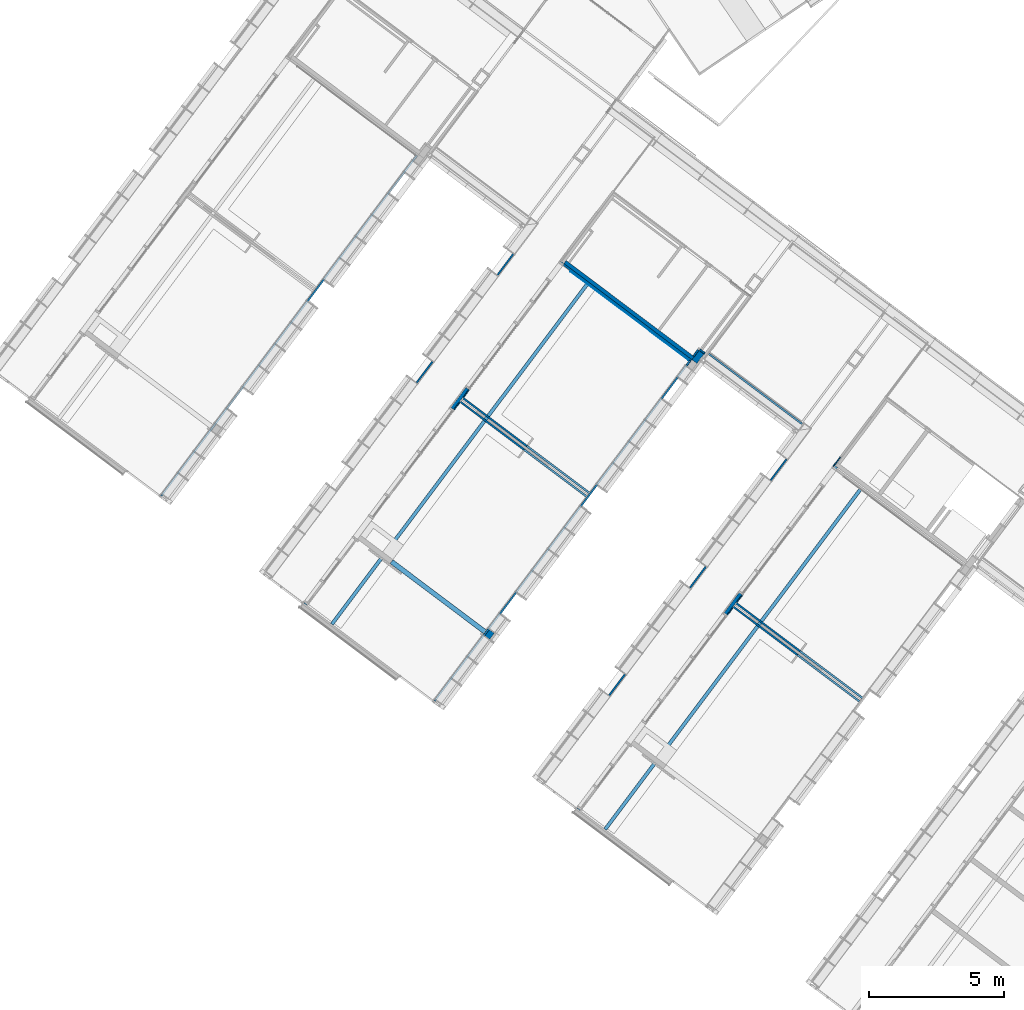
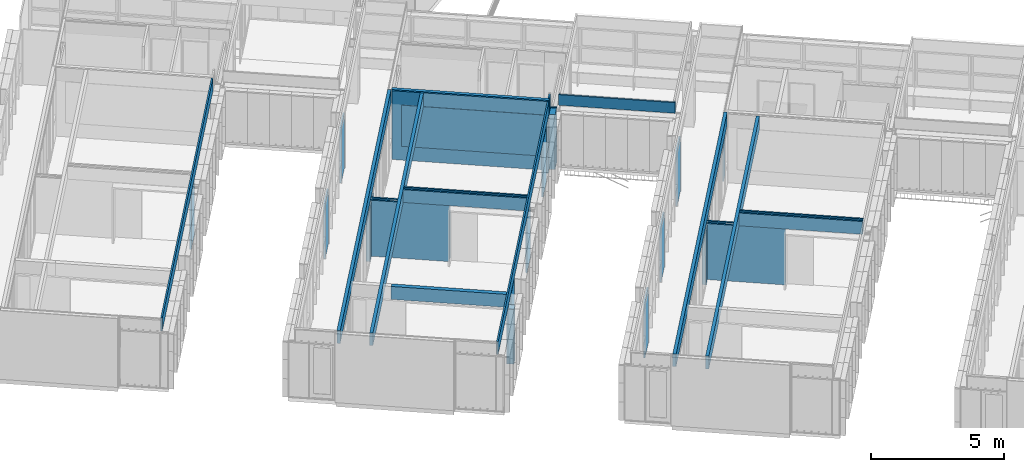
# One storey, part 126 of 243: 41 walls.
"""IFC2X3 building model written with IfcOpenShell, lengths in metres."""

from ifc_helpers import new_model, entity, si_unit, converted_unit, derived_unit, direction, frame, frame_2d, origin, place, context, subcontext, project, spatial, rectangle, extrude, material, layer, layer_set, layer_usage, type_object, element, save


model = new_model("IFC2X3")

# Units and contexts
model_context = context("Model", 3, precision=1e-05, world=origin(), true_north=direction((6.123031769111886e-17, 1.0)))
body_context = subcontext(model_context, "Body", "Model", "MODEL_VIEW")
ifc_project = project(units=[si_unit("LENGTHUNIT", "METRE"), si_unit("AREAUNIT", "SQUARE_METRE"), si_unit("VOLUMEUNIT", "CUBIC_METRE"), converted_unit("PLANEANGLEUNIT", "DEGREE", entity("IfcRatioMeasure", 0.017453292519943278), si_unit("PLANEANGLEUNIT", "RADIAN"), dimensions=[0, 0, 0, 0, 0, 0, 0]), si_unit("MASSUNIT", "GRAM", prefix="KILO"), derived_unit("MASSDENSITYUNIT", [(si_unit("MASSUNIT", "GRAM", prefix="KILO"), 1), (si_unit("LENGTHUNIT", "METRE"), -3)]), derived_unit("IONCONCENTRATIONUNIT", [(si_unit("MASSUNIT", "GRAM", prefix="KILO"), 1), (si_unit("LENGTHUNIT", "METRE"), -3)]), derived_unit("MOMENTOFINERTIAUNIT", [(si_unit("LENGTHUNIT", "METRE"), 4)]), si_unit("TIMEUNIT", "SECOND"), si_unit("FREQUENCYUNIT", "HERTZ"), si_unit("THERMODYNAMICTEMPERATUREUNIT", "DEGREE_CELSIUS"), derived_unit("THERMALTRANSMITTANCEUNIT", [(si_unit("MASSUNIT", "GRAM", prefix="KILO"), 1), (si_unit("THERMODYNAMICTEMPERATUREUNIT", "KELVIN"), -1), (si_unit("TIMEUNIT", "SECOND"), -3)]), derived_unit("THERMALCONDUCTANCEUNIT", [(si_unit("MASSUNIT", "GRAM", prefix="KILO"), 1), (si_unit("THERMODYNAMICTEMPERATUREUNIT", "KELVIN"), -1), (si_unit("TIMEUNIT", "SECOND"), -3), (si_unit("LENGTHUNIT", "METRE"), 1)]), derived_unit("VOLUMETRICFLOWRATEUNIT", [(si_unit("LENGTHUNIT", "METRE"), 3), (si_unit("TIMEUNIT", "SECOND"), -1)]), derived_unit("MASSFLOWRATEUNIT", [(si_unit("MASSUNIT", "GRAM", prefix="KILO"), 1), (si_unit("TIMEUNIT", "SECOND"), -1)]), derived_unit("ROTATIONALFREQUENCYUNIT", [(si_unit("TIMEUNIT", "SECOND"), -1)]), si_unit("ELECTRICCURRENTUNIT", "AMPERE"), si_unit("ELECTRICVOLTAGEUNIT", "VOLT"), si_unit("POWERUNIT", "WATT"), si_unit("FORCEUNIT", "NEWTON", prefix="KILO"), si_unit("ILLUMINANCEUNIT", "LUX"), si_unit("LUMINOUSFLUXUNIT", "LUMEN"), si_unit("LUMINOUSINTENSITYUNIT", "CANDELA"), derived_unit("USERDEFINED", [(si_unit("MASSUNIT", "GRAM", prefix="KILO"), -1), (si_unit("LENGTHUNIT", "METRE"), -2), (si_unit("TIMEUNIT", "SECOND"), 3), (si_unit("LUMINOUSFLUXUNIT", "LUMEN"), 1)]), derived_unit("USERDEFINED", [(si_unit("MASSUNIT", "GRAM", prefix="KILO"), 1), (si_unit("TIMEUNIT", "SECOND"), -3), (si_unit("LENGTHUNIT", "METRE"), 3), (si_unit("ELECTRICCURRENTUNIT", "AMPERE"), -2)]), derived_unit("SOUNDPOWERUNIT", [(si_unit("MASSUNIT", "GRAM", prefix="KILO"), 1), (si_unit("TIMEUNIT", "SECOND"), -3), (si_unit("LENGTHUNIT", "METRE"), 2)]), derived_unit("SOUNDPRESSUREUNIT", [(si_unit("MASSUNIT", "GRAM", prefix="KILO"), 1), (si_unit("LENGTHUNIT", "METRE"), -1), (si_unit("TIMEUNIT", "SECOND"), -2)]), derived_unit("LINEARVELOCITYUNIT", [(si_unit("LENGTHUNIT", "METRE"), 1), (si_unit("TIMEUNIT", "SECOND"), -1)]), si_unit("PRESSUREUNIT", "PASCAL"), derived_unit("USERDEFINED", [(si_unit("MASSUNIT", "GRAM", prefix="KILO"), 1), (si_unit("LENGTHUNIT", "METRE"), -2), (si_unit("TIMEUNIT", "SECOND"), -2)]), derived_unit("LINEARFORCEUNIT", [(si_unit("MASSUNIT", "GRAM", prefix="KILO"), 1), (si_unit("TIMEUNIT", "SECOND"), -2)]), derived_unit("PLANARFORCEUNIT", [(si_unit("MASSUNIT", "GRAM", prefix="KILO"), 1), (si_unit("LENGTHUNIT", "METRE"), -1), (si_unit("TIMEUNIT", "SECOND"), -2)]), derived_unit("SPECIFICHEATCAPACITYUNIT", [(si_unit("THERMODYNAMICTEMPERATUREUNIT", "KELVIN"), -1), (si_unit("LENGTHUNIT", "METRE"), 2), (si_unit("TIMEUNIT", "SECOND"), -2)]), derived_unit("HEATINGVALUEUNIT", [(si_unit("LENGTHUNIT", "METRE"), 2), (si_unit("TIMEUNIT", "SECOND"), -2)]), derived_unit("VAPORPERMEABILITYUNIT", [(si_unit("LENGTHUNIT", "METRE"), -1), (si_unit("TIMEUNIT", "SECOND"), 1)]), derived_unit("DYNAMICVISCOSITYUNIT", [(si_unit("MASSUNIT", "GRAM", prefix="KILO"), 1), (si_unit("TIMEUNIT", "SECOND"), -1), (si_unit("LENGTHUNIT", "METRE"), -1)]), derived_unit("THERMALEXPANSIONCOEFFICIENTUNIT", [(si_unit("THERMODYNAMICTEMPERATUREUNIT", "KELVIN"), -1)]), derived_unit("MODULUSOFELASTICITYUNIT", [(si_unit("MASSUNIT", "GRAM", prefix="KILO"), 1), (si_unit("LENGTHUNIT", "METRE"), -1), (si_unit("TIMEUNIT", "SECOND"), -2)]), derived_unit("ISOTHERMALMOISTURECAPACITYUNIT", [(si_unit("LENGTHUNIT", "METRE"), 3), (si_unit("MASSUNIT", "GRAM", prefix="KILO"), -1)]), derived_unit("MOISTUREDIFFUSIVITYUNIT", [(si_unit("TIMEUNIT", "SECOND"), -1), (si_unit("LENGTHUNIT", "METRE"), 2)])], contexts=[model_context])

# Site, building, storey
site_placement = place(None, frame((0.0, 0.0, 235.0), z_axis=(0.0, 0.0, 1.0), x_axis=(-0.7996477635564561, 0.6004693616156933, 0.0)))
site = spatial("IfcSite", under=ifc_project, at=site_placement, Name="Default", CompositionType="ELEMENT")
building_placement = place(site_placement, origin())
building = spatial("IfcBuilding", under=site, at=building_placement, CompositionType="ELEMENT")
storey_placement = place(building_placement, origin())
storey = spatial("IfcBuildingStorey", under=building, at=storey_placement, Name="P0- Escola", CompositionType="ELEMENT", Elevation=0.0)

# Walls
ifc_material_1 = material(Name="_Ceràmica- ENV")
ifc_layer_1 = layer(ifc_material_1, 0.14)
ifc_layer_set_1 = layer_set([ifc_layer_1], Name="Muro básico:ENV- Ceràmic- 14 cm")
ifc_layer_usage_1 = layer_usage(ifc_layer_set_1, "AXIS2", "NEGATIVE", 0.07)
wall_type_1 = type_object("IfcWallType", Name="Muro básico:ENV- Ceràmic- 14 cm", PredefinedType="STANDARD", material=ifc_layer_set_1)
wall_1_placement = place(storey_placement, frame((60.000147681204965, -36.320191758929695, 0.0), z_axis=(0.0, 0.0, 1.0), x_axis=(-1.0, 0.0, 0.0)))
element("IfcWallStandardCase", 1, at=wall_1_placement, inside=storey, type_object=wall_type_1, material=ifc_layer_usage_1, Name="Muro básico:ENV- Ceràmic- 14 cm", ObjectType="Muro básico:ENV- Ceràmic- 14 cm", context=body_context, shape_type="SweptSolid", body=[
    extrude(rectangle(XDim=5.955000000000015, YDim=0.14000000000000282, at=frame_2d((2.9775000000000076, -4.0245584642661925e-16), x_axis=(-1.0, 0.0))), origin(), (0.0, 0.0, 1.0), 3.150000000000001),
])
ifc_material_2 = material(Name="_Fusta massisa- T1-  REV- PAV")
ifc_layer_2 = layer(ifc_material_2, 0.015)
ifc_material_3 = material(Name="_Genèric perfils, muntants, rastrells")
ifc_layer_3 = layer(ifc_material_3, 0.02)
ifc_layer_set_2 = layer_set([ifc_layer_2, ifc_layer_3], Name="Muro básico:REV- Fusta- T1- 3,5 cm")
ifc_layer_usage_2 = layer_usage(ifc_layer_set_2, "AXIS2", "NEGATIVE", 0.0175)
wall_type_2 = type_object("IfcWallType", Name="Muro básico:REV- Fusta- T1- 3,5 cm", PredefinedType="STANDARD", material=ifc_layer_set_2)
wall_2_placement = place(storey_placement, frame((47.46264768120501, -36.22018997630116, 0.0), z_axis=(0.0, 0.0, 1.0), x_axis=(0.0, -1.0, 0.0)))
element("IfcWallStandardCase", 2, at=wall_2_placement, inside=storey, type_object=wall_type_2, material=ifc_layer_usage_2, Name="Muro básico:REV- Fusta- T1- 3,5 cm", ObjectType="Muro básico:REV- Fusta- T1- 3,5 cm", context=body_context, shape_type="SweptSolid", body=[
    extrude(rectangle(XDim=0.4500000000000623, YDim=0.034999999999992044, at=frame_2d((0.22500000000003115, 0.0), x_axis=(-1.0, 0.0))), origin(), (0.0, 0.0, 1.0), 2.565),
])
ifc_layer_usage_3 = layer_usage(ifc_layer_set_2, "AXIS2", "POSITIVE", -0.0175)
wall_3_placement = place(storey_placement, frame((47.297647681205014, -30.0341899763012, 0.0), z_axis=(0.0, 0.0, 1.0), x_axis=(0.0, -1.0, 0.0)))
element("IfcWallStandardCase", 3, at=wall_3_placement, inside=storey, type_object=wall_type_2, material=ifc_layer_usage_3, Name="Muro básico:REV- Fusta- T1- 3,5 cm", ObjectType="Muro básico:REV- Fusta- T1- 3,5 cm", context=body_context, shape_type="SweptSolid", body=[
    extrude(rectangle(XDim=0.35099999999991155, YDim=0.034999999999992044, at=frame_2d((0.17549999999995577, 0.0), x_axis=(-1.0, 0.0))), origin(), (0.0, 0.0, 1.0), 2.5049999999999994),
])
wall_4_placement = place(storey_placement, frame((47.297647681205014, -29.796186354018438, 0.0), z_axis=(0.0, 0.0, 1.0), x_axis=(0.0, 1.0, 0.0)))
element("IfcWallStandardCase", 4, at=wall_4_placement, inside=storey, type_object=wall_type_2, material=ifc_layer_usage_2, Name="Muro básico:REV- Fusta- T1- 3,5 cm", ObjectType="Muro básico:REV- Fusta- T1- 3,5 cm", context=body_context, shape_type="SweptSolid", body=[
    extrude(rectangle(XDim=0.35099999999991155, YDim=0.034999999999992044, at=frame_2d((0.17549999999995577, -3.1970953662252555e-15), x_axis=(-1.0, 0.0))), origin(), (0.0, 0.0, 1.0), 2.5049999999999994),
])
wall_5_placement = place(storey_placement, frame((59.99764768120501, -30.034189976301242, 0.0), z_axis=(0.0, 0.0, 1.0), x_axis=(0.0, -1.0, 0.0)))
element("IfcWallStandardCase", 5, at=wall_5_placement, inside=storey, type_object=wall_type_2, material=ifc_layer_usage_3, Name="Muro básico:REV- Fusta- T1- 3,5 cm", ObjectType="Muro básico:REV- Fusta- T1- 3,5 cm", context=body_context, shape_type="SweptSolid", body=[
    extrude(rectangle(XDim=0.35099999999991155, YDim=0.034999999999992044, at=frame_2d((0.17549999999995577, 0.0), x_axis=(-1.0, 0.0))), origin(), (0.0, 0.0, 1.0), 2.5049999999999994),
])
wall_6_placement = place(storey_placement, frame((59.99764768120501, -29.79618635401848, 0.0), z_axis=(0.0, 0.0, 1.0), x_axis=(0.0, 1.0, 0.0)))
element("IfcWallStandardCase", 6, at=wall_6_placement, inside=storey, type_object=wall_type_2, material=ifc_layer_usage_2, Name="Muro básico:REV- Fusta- T1- 3,5 cm", ObjectType="Muro básico:REV- Fusta- T1- 3,5 cm", context=body_context, shape_type="SweptSolid", body=[
    extrude(rectangle(XDim=0.35099999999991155, YDim=0.034999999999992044, at=frame_2d((0.17549999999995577, -3.1970953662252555e-15), x_axis=(-1.0, 0.0))), origin(), (0.0, 0.0, 1.0), 2.5049999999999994),
])
ifc_material_4 = material(Name="_Guix laminat- ENV")
ifc_layer_4 = layer(ifc_material_4, 0.02)
ifc_material_5 = material(Name="_Aillament")
ifc_layer_5 = layer(ifc_material_5, 0.045)
ifc_layer_set_3 = layer_set([ifc_layer_4, ifc_layer_5], Name="Muro básico:REV- Guix Laminat Extradossat- Aillament- T1- 6,5 cm")
ifc_layer_usage_4 = layer_usage(ifc_layer_set_3, "AXIS2", "POSITIVE", -0.032499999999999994)
wall_type_3 = type_object("IfcWallType", Name="Muro básico:REV- Guix Laminat Extradossat- Aillament- T1- 6,5 cm", PredefinedType="STANDARD", material=ifc_layer_set_3)
wall_7_placement = place(storey_placement, frame((53.805147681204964, -36.72269175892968, 0.0)))
element("IfcWallStandardCase", 7, at=wall_7_placement, inside=storey, type_object=wall_type_3, material=ifc_layer_usage_4, Name="Muro básico:REV- Guix Laminat Extradossat- Aillament- T1- 6,5 cm", ObjectType="Muro básico:REV- Guix Laminat Extradossat- Aillament- T1- 6,5 cm", context=body_context, shape_type="SweptSolid", body=[
    extrude(rectangle(XDim=0.23999999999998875, YDim=0.06500000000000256, at=frame_2d((0.11999999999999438, 0.0), x_axis=(-1.0, 0.0))), origin(), (0.0, 0.0, 1.0), 2.535000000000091),
])
wall_8_placement = place(storey_placement, frame((54.07764768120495, -36.69019175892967, 0.0), z_axis=(0.0, 0.0, 1.0), x_axis=(0.0, 1.0, 0.0)))
element("IfcWallStandardCase", 8, at=wall_8_placement, inside=storey, type_object=wall_type_3, material=ifc_layer_usage_4, Name="Muro básico:REV- Guix Laminat Extradossat- Aillament- T1- 6,5 cm", ObjectType="Muro básico:REV- Guix Laminat Extradossat- Aillament- T1- 6,5 cm", context=body_context, shape_type="SweptSolid", body=[
    extrude(rectangle(XDim=0.29500000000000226, YDim=0.06500000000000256, at=frame_2d((0.14750000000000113, 0.0), x_axis=(-1.0, 0.0))), origin(), (0.0, 0.0, 1.0), 3.150000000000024),
])
ifc_layer_usage_5 = layer_usage(ifc_layer_set_3, "AXIS2", "NEGATIVE", 0.032499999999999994)
wall_9_placement = place(storey_placement, frame((53.74514768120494, -36.79769175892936, 2.6000000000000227), z_axis=(0.0, 0.0, 1.0), x_axis=(-1.0, 0.0, 0.0)))
element("IfcWallStandardCase", 9, at=wall_9_placement, inside=storey, type_object=wall_type_3, material=ifc_layer_usage_5, Name="Muro básico:REV- Guix Laminat Extradossat- Aillament- T1- 6,5 cm", ObjectType="Muro básico:REV- Guix Laminat Extradossat- Aillament- T1- 6,5 cm", context=body_context, shape_type="SweptSolid", body=[
    extrude(rectangle(XDim=4.40000814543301, YDim=0.06500000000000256, at=frame_2d((2.200004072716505, 9.71445146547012e-17), x_axis=(-1.0, 0.0))), origin(), (0.0, 0.0, 1.0), 0.48500000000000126),
])
wall_10_placement = place(storey_placement, frame((49.01264768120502, -24.420191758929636, 0.0), z_axis=(0.0, 0.0, 1.0), x_axis=(0.0, -1.0, 0.0)))
element("IfcWallStandardCase", 10, at=wall_10_placement, inside=storey, type_object=wall_type_3, material=ifc_layer_usage_4, Name="Muro básico:REV- Guix Laminat Extradossat- Aillament- T1- 6,5 cm", ObjectType="Muro básico:REV- Guix Laminat Extradossat- Aillament- T1- 6,5 cm", context=body_context, shape_type="SweptSolid", body=[
    extrude(rectangle(XDim=0.9900000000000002, YDim=0.06500000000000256, at=frame_2d((0.4950000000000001, -1.4467593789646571e-15), x_axis=(-1.0, 0.0))), origin(), (0.0, 0.0, 1.0), 2.565),
])
wall_11_placement = place(storey_placement, frame((49.012647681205, -29.420191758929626, 0.0), z_axis=(0.0, 0.0, 1.0), x_axis=(0.0, -1.0, 0.0)))
element("IfcWallStandardCase", 11, at=wall_11_placement, inside=storey, type_object=wall_type_3, material=ifc_layer_usage_4, Name="Muro básico:REV- Guix Laminat Extradossat- Aillament- T1- 6,5 cm", ObjectType="Muro básico:REV- Guix Laminat Extradossat- Aillament- T1- 6,5 cm", context=body_context, shape_type="SweptSolid", body=[
    extrude(rectangle(XDim=0.9900000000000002, YDim=0.06500000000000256, at=frame_2d((0.4950000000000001, -1.4467593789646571e-15), x_axis=(-1.0, 0.0))), origin(), (0.0, 0.0, 1.0), 2.535000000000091),
])
wall_12_placement = place(storey_placement, frame((49.01264768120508, -35.410191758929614, 0.0), z_axis=(0.0, 0.0, 1.0), x_axis=(0.0, 1.0, 0.0)))
element("IfcWallStandardCase", 12, at=wall_12_placement, inside=storey, type_object=wall_type_3, material=ifc_layer_usage_5, Name="Muro básico:REV- Guix Laminat Extradossat- Aillament- T1- 6,5 cm", ObjectType="Muro básico:REV- Guix Laminat Extradossat- Aillament- T1- 6,5 cm", context=body_context, shape_type="SweptSolid", body=[
    extrude(rectangle(XDim=0.9900000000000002, YDim=0.06500000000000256, at=frame_2d((0.4950000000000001, 0.0), x_axis=(-1.0, 0.0))), origin(), (0.0, 0.0, 1.0), 2.535000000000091),
])
wall_13_placement = place(storey_placement, frame((54.07764768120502, -36.1751917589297, 2.565), z_axis=(0.0, 0.0, 1.0), x_axis=(0.0, 1.0, 0.0)))
element("IfcWallStandardCase", 13, at=wall_13_placement, inside=storey, type_object=wall_type_3, material=ifc_layer_usage_4, Name="Muro básico:REV- Guix Laminat Extradossat- Aillament- T1- 6,5 cm", ObjectType="Muro básico:REV- Guix Laminat Extradossat- Aillament- T1- 6,5 cm", context=body_context, shape_type="SweptSolid", body=[
    extrude(rectangle(XDim=15.816250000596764, YDim=0.06500000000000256, at=frame_2d((7.908125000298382, 0.0), x_axis=(-1.0, 0.0))), origin(), (0.0, 0.0, 1.0), 0.5850000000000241),
])
for number, where, z_axis, x_axis, name in (
    (14, (54.07764768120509, -29.420191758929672, 0.0), (0.0, 0.0, 1.0), (0.0, -1.0, 0.0), "Muro básico:REV- Guix Laminat Extradossat- Aillament- T1- 6,5 cm"),
    (15, (54.0776476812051, -24.420191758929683, 0.0), (0.0, 0.0, 1.0), (0.0, -1.0, 0.0), "Muro básico:REV- Guix Laminat Extradossat- Aillament- T1- 6,5 cm"),
):
    element("IfcWallStandardCase", number, at=place(storey_placement, frame(where, z_axis=z_axis, x_axis=x_axis)), inside=storey, type_object=wall_type_3, material=ifc_layer_usage_5, Name=name, ObjectType="Muro básico:REV- Guix Laminat Extradossat- Aillament- T1- 6,5 cm", context=body_context, shape_type="SweptSolid", body=[
        extrude(rectangle(XDim=0.9900000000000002, YDim=0.06500000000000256, at=frame_2d((0.4950000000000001, -1.4467593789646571e-15), x_axis=(-1.0, 0.0))), origin(), (0.0, 0.0, 1.0), 2.535000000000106),
    ])
wall_14_placement = place(storey_placement, frame((61.712647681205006, -29.42019175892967, 0.0), z_axis=(0.0, 0.0, 1.0), x_axis=(0.0, -1.0, 0.0)))
element("IfcWallStandardCase", 16, at=wall_14_placement, inside=storey, type_object=wall_type_3, material=ifc_layer_usage_4, Name="Muro básico:REV- Guix Laminat Extradossat- Aillament- T1- 6,5 cm", ObjectType="Muro básico:REV- Guix Laminat Extradossat- Aillament- T1- 6,5 cm", context=body_context, shape_type="SweptSolid", body=[
    extrude(rectangle(XDim=0.9900000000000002, YDim=0.06500000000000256, at=frame_2d((0.4950000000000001, -1.4467593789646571e-15), x_axis=(-1.0, 0.0))), origin(), (0.0, 0.0, 1.0), 2.535000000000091),
])
wall_15_placement = place(storey_placement, frame((54.07764768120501, -23.420191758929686, 0.0), z_axis=(0.0, 0.0, 1.0), x_axis=(0.0, -1.0, 0.0)))
element("IfcWallStandardCase", 17, at=wall_15_placement, inside=storey, type_object=wall_type_3, material=ifc_layer_usage_5, Name="Muro básico:REV- Guix Laminat Extradossat- Aillament- T1- 6,5 cm", ObjectType="Muro básico:REV- Guix Laminat Extradossat- Aillament- T1- 6,5 cm", context=body_context, shape_type="SweptSolid", body=[
    extrude(rectangle(XDim=0.29000000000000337, YDim=0.06500000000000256, at=frame_2d((0.14500000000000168, -4.2327252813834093e-16), x_axis=(-1.0, 0.0))), origin(), (0.0, 0.0, 1.0), 2.535000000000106),
])
wall_16_placement = place(storey_placement, frame((54.077647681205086, -34.42019175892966, 0.0), z_axis=(0.0, 0.0, 1.0), x_axis=(0.0, -1.0, 0.0)))
element("IfcWallStandardCase", 18, at=wall_16_placement, inside=storey, type_object=wall_type_3, material=ifc_layer_usage_5, Name="Muro básico:REV- Guix Laminat Extradossat- Aillament- T1- 6,5 cm", ObjectType="Muro básico:REV- Guix Laminat Extradossat- Aillament- T1- 6,5 cm", context=body_context, shape_type="SweptSolid", body=[
    extrude(rectangle(XDim=0.9900000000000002, YDim=0.06500000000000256, at=frame_2d((0.4950000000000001, -1.4467593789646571e-15), x_axis=(-1.0, 0.0))), origin(), (0.0, 0.0, 1.0), 2.535000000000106),
])
wall_17_placement = place(storey_placement, frame((54.077647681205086, -35.95318997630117, 0.0), z_axis=(0.0, 0.0, 1.0), x_axis=(0.0, -1.0, 0.0)))
element("IfcWallStandardCase", 19, at=wall_17_placement, inside=storey, type_object=wall_type_3, material=ifc_layer_usage_5, Name="Muro básico:REV- Guix Laminat Extradossat- Aillament- T1- 6,5 cm", ObjectType="Muro básico:REV- Guix Laminat Extradossat- Aillament- T1- 6,5 cm", context=body_context, shape_type="SweptSolid", body=[
    extrude(rectangle(XDim=0.22200178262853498, YDim=0.06500000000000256, at=frame_2d((0.11100089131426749, 0.0), x_axis=(-1.0, 0.0))), origin(), (0.0, 0.0, 1.0), 2.535000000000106),
])
wall_18_placement = place(storey_placement, frame((61.712647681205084, -35.410191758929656, 0.0), z_axis=(0.0, 0.0, 1.0), x_axis=(0.0, 1.0, 0.0)))
element("IfcWallStandardCase", 20, at=wall_18_placement, inside=storey, type_object=wall_type_3, material=ifc_layer_usage_5, Name="Muro básico:REV- Guix Laminat Extradossat- Aillament- T1- 6,5 cm", ObjectType="Muro básico:REV- Guix Laminat Extradossat- Aillament- T1- 6,5 cm", context=body_context, shape_type="SweptSolid", body=[
    extrude(rectangle(XDim=0.9900000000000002, YDim=0.06500000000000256, at=frame_2d((0.4950000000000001, 0.0), x_axis=(-1.0, 0.0))), origin(), (0.0, 0.0, 1.0), 2.535000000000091),
])
wall_19_placement = place(storey_placement, frame((66.77764768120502, -36.17519175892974, 2.565), z_axis=(0.0, 0.0, 1.0), x_axis=(0.0, 1.0, 0.0)))
element("IfcWallStandardCase", 21, at=wall_19_placement, inside=storey, type_object=wall_type_3, material=ifc_layer_usage_4, Name="Muro básico:REV- Guix Laminat Extradossat- Aillament- T1- 6,5 cm", ObjectType="Muro básico:REV- Guix Laminat Extradossat- Aillament- T1- 6,5 cm", context=body_context, shape_type="SweptSolid", body=[
    extrude(rectangle(XDim=15.816250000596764, YDim=0.06500000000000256, at=frame_2d((7.908125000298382, 0.0), x_axis=(-1.0, 0.0))), origin(), (0.0, 0.0, 1.0), 0.5850000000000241),
])
wall_20_placement = place(storey_placement, frame((66.7776476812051, -29.420191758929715, 0.0), z_axis=(0.0, 0.0, 1.0), x_axis=(0.0, -1.0, 0.0)))
element("IfcWallStandardCase", 22, at=wall_20_placement, inside=storey, type_object=wall_type_3, material=ifc_layer_usage_5, Name="Muro básico:REV- Guix Laminat Extradossat- Aillament- T1- 6,5 cm", ObjectType="Muro básico:REV- Guix Laminat Extradossat- Aillament- T1- 6,5 cm", context=body_context, shape_type="SweptSolid", body=[
    extrude(rectangle(XDim=0.9900000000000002, YDim=0.06500000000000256, at=frame_2d((0.4950000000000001, -1.4467593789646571e-15), x_axis=(-1.0, 0.0))), origin(), (0.0, 0.0, 1.0), 2.535000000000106),
])
ifc_layer_6 = layer(ifc_material_1, 0.23)
ifc_layer_set_4 = layer_set([ifc_layer_6], Name="Muro básico:ENV- Ceràmic Replè- 23 cm")
ifc_layer_usage_6 = layer_usage(ifc_layer_set_4, "AXIS2", "POSITIVE", -0.115)
wall_type_4 = type_object("IfcWallType", Name="Muro básico:ENV- Ceràmic Replè- 23 cm", PredefinedType="STANDARD", material=ifc_layer_set_4)
wall_21_placement = place(storey_placement, frame((53.93014768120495, -36.250191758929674, 0.0), z_axis=(0.0, 0.0, 1.0), x_axis=(0.0, -1.0, 0.0)))
element("IfcWallStandardCase", 23, at=wall_21_placement, inside=storey, type_object=wall_type_4, material=ifc_layer_usage_6, Name="Muro básico:ENV- Ceràmic Replè- 23 cm", ObjectType="Muro básico:ENV- Ceràmic Replè- 23 cm", context=body_context, shape_type="SweptSolid", body=[
    extrude(rectangle(XDim=0.4399999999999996, YDim=0.2299999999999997, at=frame_2d((0.2199999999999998, 0.0), x_axis=(-1.0, 0.0))), origin(), (0.0, 0.0, 1.0), 2.514054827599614),
])
wall_22_placement = place(storey_placement, frame((53.9301476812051, -23.420191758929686, 0.0), z_axis=(0.0, 0.0, 1.0), x_axis=(0.0, -1.0, 0.0)))
element("IfcWallStandardCase", 24, at=wall_22_placement, inside=storey, type_object=wall_type_4, material=ifc_layer_usage_6, Name="Muro básico:ENV- Ceràmic Replè- 23 cm", ObjectType="Muro básico:ENV- Ceràmic Replè- 23 cm", context=body_context, shape_type="SweptSolid", body=[
    extrude(rectangle(XDim=0.29000000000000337, YDim=0.2299999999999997, at=frame_2d((0.14500000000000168, 0.0), x_axis=(-1.0, 0.0))), origin(), (0.0, 0.0, 1.0), 2.514054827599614),
])
ifc_layer_7 = layer(ifc_material_4, 0.03)
ifc_layer_8 = layer(ifc_material_5, 0.045)
ifc_layer_set_5 = layer_set([ifc_layer_7, ifc_layer_8], Name="Muro básico:REV- Guix Laminat Extradossat- Aillament- T1- 7,5 cm")
ifc_layer_usage_7 = layer_usage(ifc_layer_set_5, "AXIS2", "POSITIVE", -0.0375)
wall_type_5 = type_object("IfcWallType", Name="Muro básico:REV- Guix Laminat Extradossat- Aillament- T1- 7,5 cm", PredefinedType="STANDARD", material=ifc_layer_set_5)
wall_23_placement = place(storey_placement, frame((59.980147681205, -36.2126917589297, 0.0), z_axis=(0.0, 0.0, 1.0), x_axis=(-1.0, 0.0, 0.0)))
element("IfcWallStandardCase", 25, at=wall_23_placement, inside=storey, type_object=wall_type_5, material=ifc_layer_usage_7, Name="Muro básico:REV- Guix Laminat Extradossat- Aillament- T1- 7,5 cm", ObjectType="Muro básico:REV- Guix Laminat Extradossat- Aillament- T1- 7,5 cm", context=body_context, shape_type="SweptSolid", body=[
    extrude(rectangle(XDim=5.934999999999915, YDim=0.07500000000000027, at=frame_2d((2.9674999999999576, 0.0), x_axis=(-1.0, 0.0))), origin(), (0.0, 0.0, 1.0), 3.150000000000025),
])
ifc_layer_9 = layer(ifc_material_4, 0.03)
ifc_layer_10 = layer(ifc_material_3, 0.07)
ifc_layer_11 = layer(ifc_material_4, 0.03)
ifc_layer_set_6 = layer_set([ifc_layer_9, ifc_layer_10, ifc_layer_11], Name="Muro básico:ENV- Guix Laminat- 13 cm")
ifc_layer_usage_8 = layer_usage(ifc_layer_set_6, "AXIS2", "NEGATIVE", 0.06499999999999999)
wall_type_6 = type_object("IfcWallType", Name="Muro básico:ENV- Guix Laminat- 13 cm", PredefinedType="STANDARD", material=ifc_layer_set_6)
wall_24_placement = place(storey_placement, frame((47.38014768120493, -20.353941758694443, 2.565), z_axis=(0.0, 0.0, 1.0), x_axis=(0.0, -1.0, 0.0)))
element("IfcWallStandardCase", 26, at=wall_24_placement, inside=storey, type_object=wall_type_6, material=ifc_layer_usage_8, Name="Muro básico:ENV- Guix Laminat- 13 cm", ObjectType="Muro básico:ENV- Guix Laminat- 13 cm", context=body_context, shape_type="SweptSolid", body=[
    extrude(rectangle(XDim=15.944248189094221, YDim=0.1300000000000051, at=frame_2d((7.972124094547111, 0.0), x_axis=(-1.0, 0.0))), origin(), (0.0, 0.0, 1.0), 0.5850000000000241),
])
wall_25_placement = place(storey_placement, frame((46.14314768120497, -20.35394175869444, 2.565), z_axis=(0.0, 0.0, 1.0), x_axis=(0.0, -1.0, 0.0)))
element("IfcWallStandardCase", 27, at=wall_25_placement, inside=storey, type_object=wall_type_6, material=ifc_layer_usage_8, Name="Muro básico:ENV- Guix Laminat- 13 cm", ObjectType="Muro básico:ENV- Guix Laminat- 13 cm", context=body_context, shape_type="SweptSolid", body=[
    extrude(rectangle(XDim=15.821250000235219, YDim=0.1300000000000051, at=frame_2d((7.9106250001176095, 0.0), x_axis=(-1.0, 0.0))), origin(), (0.0, 0.0, 1.0), 0.5850000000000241),
])
wall_26_placement = place(storey_placement, frame((47.380147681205, -29.445189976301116, 0.0), z_axis=(0.0, 0.0, 1.0), x_axis=(0.0, -1.0, 0.0)))
element("IfcWallStandardCase", 28, at=wall_26_placement, inside=storey, type_object=wall_type_6, material=ifc_layer_usage_8, Name="Muro básico:ENV- Guix Laminat- 13 cm", ObjectType="Muro básico:ENV- Guix Laminat- 13 cm", context=body_context, shape_type="SweptSolid", body=[
    extrude(rectangle(XDim=0.9399999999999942, YDim=0.1300000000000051, at=frame_2d((0.4699999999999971, 0.0), x_axis=(-1.0, 0.0))), origin(), (0.0, 0.0, 1.0), 2.5049999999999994),
])
wall_27_placement = place(storey_placement, frame((60.080147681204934, -20.353941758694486, 2.565), z_axis=(0.0, 0.0, 1.0), x_axis=(0.0, -1.0, 0.0)))
element("IfcWallStandardCase", 29, at=wall_27_placement, inside=storey, type_object=wall_type_6, material=ifc_layer_usage_8, Name="Muro básico:ENV- Guix Laminat- 13 cm", ObjectType="Muro básico:ENV- Guix Laminat- 13 cm", context=body_context, shape_type="SweptSolid", body=[
    extrude(rectangle(XDim=15.896250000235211, YDim=0.1300000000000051, at=frame_2d((7.948125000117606, 0.0), x_axis=(-1.0, 0.0))), origin(), (0.0, 0.0, 1.0), 0.5850000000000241),
])
wall_28_placement = place(storey_placement, frame((58.84314768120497, -20.353941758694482, 2.565), z_axis=(0.0, 0.0, 1.0), x_axis=(0.0, -1.0, 0.0)))
element("IfcWallStandardCase", 30, at=wall_28_placement, inside=storey, type_object=wall_type_6, material=ifc_layer_usage_8, Name="Muro básico:ENV- Guix Laminat- 13 cm", ObjectType="Muro básico:ENV- Guix Laminat- 13 cm", context=body_context, shape_type="SweptSolid", body=[
    extrude(rectangle(XDim=15.821250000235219, YDim=0.1300000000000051, at=frame_2d((7.9106250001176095, 0.0), x_axis=(-1.0, 0.0))), origin(), (0.0, 0.0, 1.0), 0.5850000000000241),
])
wall_29_placement = place(storey_placement, frame((60.080147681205, -29.445189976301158, 0.0), z_axis=(0.0, 0.0, 1.0), x_axis=(0.0, -1.0, 0.0)))
element("IfcWallStandardCase", 31, at=wall_29_placement, inside=storey, type_object=wall_type_6, material=ifc_layer_usage_8, Name="Muro básico:ENV- Guix Laminat- 13 cm", ObjectType="Muro básico:ENV- Guix Laminat- 13 cm", context=body_context, shape_type="SweptSolid", body=[
    extrude(rectangle(XDim=0.9399999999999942, YDim=0.1300000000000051, at=frame_2d((0.4699999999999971, 0.0), x_axis=(-1.0, 0.0))), origin(), (0.0, 0.0, 1.0), 2.5049999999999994),
])
ifc_layer_12 = layer(ifc_material_4, 0.015)
ifc_layer_13 = layer(ifc_material_3, 0.055)
ifc_layer_set_7 = layer_set([ifc_layer_12, ifc_layer_13], Name="Muro básico:ENV- Guix Laminat una cara- 7 cm")
ifc_layer_usage_9 = layer_usage(ifc_layer_set_7, "AXIS2", "POSITIVE", -0.035)
wall_type_7 = type_object("IfcWallType", Name="Muro básico:ENV- Guix Laminat una cara- 7 cm", PredefinedType="STANDARD", material=ifc_layer_set_7)
wall_30_placement = place(storey_placement, frame((47.31514768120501, -29.831189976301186, 0.0), z_axis=(0.0, 0.0, 1.0), x_axis=(-1.0, 0.0, 0.0)))
element("IfcWallStandardCase", 32, at=wall_30_placement, inside=storey, type_object=wall_type_7, material=ifc_layer_usage_9, Name="Muro básico:ENV- Guix Laminat una cara- 7 cm", ObjectType="Muro básico:ENV- Guix Laminat una cara- 7 cm", context=body_context, shape_type="SweptSolid", body=[
    extrude(rectangle(XDim=2.986999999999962, YDim=0.07000000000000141, at=frame_2d((1.493499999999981, 0.0), x_axis=(-1.0, 0.0))), origin(), (0.0, 0.0, 1.0), 2.5650000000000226),
])
ifc_layer_usage_10 = layer_usage(ifc_layer_set_7, "AXIS2", "NEGATIVE", 0.035)
wall_31_placement = place(storey_placement, frame((47.31514768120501, -29.9991899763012, 0.0), z_axis=(0.0, 0.0, 1.0), x_axis=(-1.0, 0.0, 0.0)))
element("IfcWallStandardCase", 33, at=wall_31_placement, inside=storey, type_object=wall_type_7, material=ifc_layer_usage_10, Name="Muro básico:ENV- Guix Laminat una cara- 7 cm", ObjectType="Muro básico:ENV- Guix Laminat una cara- 7 cm", context=body_context, shape_type="SweptSolid", body=[
    extrude(rectangle(XDim=2.9869999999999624, YDim=0.07000000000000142, at=frame_2d((1.4934999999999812, 9.957312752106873e-16), x_axis=(-1.0, 0.0))), origin(), (0.0, 0.0, 1.0), 2.5650000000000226),
])
wall_32_placement = place(storey_placement, frame((46.07814768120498, -29.831189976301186, 2.5649999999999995), z_axis=(0.0, 0.0, 1.0), x_axis=(-1.0, 0.0, 0.0)))
element("IfcWallStandardCase", 34, at=wall_32_placement, inside=storey, type_object=wall_type_7, material=ifc_layer_usage_9, Name="Muro básico:ENV- Guix Laminat una cara- 7 cm", ObjectType="Muro básico:ENV- Guix Laminat una cara- 7 cm", context=body_context, shape_type="SweptSolid", body=[
    extrude(rectangle(XDim=4.670499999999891, YDim=0.07000000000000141, at=frame_2d((2.3352499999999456, 0.0), x_axis=(-1.0, 0.0))), origin(), (0.0, 0.0, 1.0), 0.5850000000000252),
])
wall_33_placement = place(storey_placement, frame((46.07814768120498, -29.99918997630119, 2.5649999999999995), z_axis=(0.0, 0.0, 1.0), x_axis=(-1.0, 0.0, 0.0)))
element("IfcWallStandardCase", 35, at=wall_33_placement, inside=storey, type_object=wall_type_7, material=ifc_layer_usage_10, Name="Muro básico:ENV- Guix Laminat una cara- 7 cm", ObjectType="Muro básico:ENV- Guix Laminat una cara- 7 cm", context=body_context, shape_type="SweptSolid", body=[
    extrude(rectangle(XDim=4.670499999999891, YDim=0.07000000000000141, at=frame_2d((2.3352499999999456, 0.0), x_axis=(-1.0, 0.0))), origin(), (0.0, 0.0, 1.0), 0.5850000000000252),
])
wall_34_placement = place(storey_placement, frame((60.01514768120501, -29.83118997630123, 0.0), z_axis=(0.0, 0.0, 1.0), x_axis=(-1.0, 0.0, 0.0)))
element("IfcWallStandardCase", 36, at=wall_34_placement, inside=storey, type_object=wall_type_7, material=ifc_layer_usage_9, Name="Muro básico:ENV- Guix Laminat una cara- 7 cm", ObjectType="Muro básico:ENV- Guix Laminat una cara- 7 cm", context=body_context, shape_type="SweptSolid", body=[
    extrude(rectangle(XDim=2.986999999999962, YDim=0.07000000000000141, at=frame_2d((1.493499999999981, 0.0), x_axis=(-1.0, 0.0))), origin(), (0.0, 0.0, 1.0), 2.5650000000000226),
])
wall_35_placement = place(storey_placement, frame((60.01514768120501, -29.999189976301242, 0.0), z_axis=(0.0, 0.0, 1.0), x_axis=(-1.0, 0.0, 0.0)))
element("IfcWallStandardCase", 37, at=wall_35_placement, inside=storey, type_object=wall_type_7, material=ifc_layer_usage_10, Name="Muro básico:ENV- Guix Laminat una cara- 7 cm", ObjectType="Muro básico:ENV- Guix Laminat una cara- 7 cm", context=body_context, shape_type="SweptSolid", body=[
    extrude(rectangle(XDim=2.9869999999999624, YDim=0.07000000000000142, at=frame_2d((1.4934999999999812, 9.957312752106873e-16), x_axis=(-1.0, 0.0))), origin(), (0.0, 0.0, 1.0), 2.5650000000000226),
])
wall_36_placement = place(storey_placement, frame((58.77814768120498, -29.83118997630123, 2.5649999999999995), z_axis=(0.0, 0.0, 1.0), x_axis=(-1.0, 0.0, 0.0)))
element("IfcWallStandardCase", 38, at=wall_36_placement, inside=storey, type_object=wall_type_7, material=ifc_layer_usage_9, Name="Muro básico:ENV- Guix Laminat una cara- 7 cm", ObjectType="Muro básico:ENV- Guix Laminat una cara- 7 cm", context=body_context, shape_type="SweptSolid", body=[
    extrude(rectangle(XDim=4.670499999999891, YDim=0.07000000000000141, at=frame_2d((2.3352499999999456, 0.0), x_axis=(-1.0, 0.0))), origin(), (0.0, 0.0, 1.0), 0.5850000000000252),
])
wall_37_placement = place(storey_placement, frame((58.77814768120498, -29.99918997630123, 2.5649999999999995), z_axis=(0.0, 0.0, 1.0), x_axis=(-1.0, 0.0, 0.0)))
element("IfcWallStandardCase", 39, at=wall_37_placement, inside=storey, type_object=wall_type_7, material=ifc_layer_usage_10, Name="Muro básico:ENV- Guix Laminat una cara- 7 cm", ObjectType="Muro básico:ENV- Guix Laminat una cara- 7 cm", context=body_context, shape_type="SweptSolid", body=[
    extrude(rectangle(XDim=4.670499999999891, YDim=0.07000000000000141, at=frame_2d((2.3352499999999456, 0.0), x_axis=(-1.0, 0.0))), origin(), (0.0, 0.0, 1.0), 0.5850000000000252),
])
ifc_material_6 = material(Name="_Pissarra- T1- Rev")
ifc_layer_14 = layer(ifc_material_6, 0.01)
ifc_layer_set_8 = layer_set([ifc_layer_14], Name="Muro básico:REV- Pissarra")
ifc_layer_usage_11 = layer_usage(ifc_layer_set_8, "AXIS2", "POSITIVE", -0.005000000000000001)
wall_type_8 = type_object("IfcWallType", Name="Muro básico:REV- Pissarra", PredefinedType="STANDARD", material=ifc_layer_set_8)
wall_38_placement = place(storey_placement, frame((59.62014768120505, -36.155189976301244, 0.6500000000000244), z_axis=(0.0, 0.0, 1.0), x_axis=(-1.0, 0.0, 0.0)))
element("IfcWallStandardCase", 40, at=wall_38_placement, inside=storey, type_object=wall_type_8, material=ifc_layer_usage_11, Name="Muro básico:REV- Pissarra", ObjectType="Muro básico:REV- Pissarra", context=body_context, shape_type="SweptSolid", body=[
    extrude(rectangle(XDim=5.479999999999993, YDim=0.009999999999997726, at=frame_2d((2.7399999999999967, 7.151397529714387e-16), x_axis=(-1.0, 0.0))), origin(), (0.0, 0.0, 1.0), 1.8850000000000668),
])
ifc_layer_15 = layer(ifc_material_4, 0.03)
ifc_layer_16 = layer(ifc_material_3, 0.046)
ifc_layer_17 = layer(ifc_material_4, 0.025)
ifc_layer_18 = layer(ifc_material_3, 0.046)
ifc_layer_19 = layer(ifc_material_4, 0.03)
ifc_layer_set_9 = layer_set([ifc_layer_15, ifc_layer_16, ifc_layer_17, ifc_layer_18, ifc_layer_19], Name="Muro básico:ENV- Guix Laminat- 17 cm")
ifc_layer_usage_12 = layer_usage(ifc_layer_set_9, "AXIS2", "NEGATIVE", 0.0885)
wall_type_9 = type_object("IfcWallType", Name="Muro básico:ENV- Guix Laminat- 17 cm", PredefinedType="STANDARD", material=ifc_layer_set_9)
wall_39_placement = place(storey_placement, frame((58.4668923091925, -23.542689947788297, 2.5600000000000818), z_axis=(0.0, 0.0, 1.0), x_axis=(-1.0, 0.0, 0.0)))
element("IfcWallStandardCase", 41, at=wall_39_placement, inside=storey, type_object=wall_type_9, material=ifc_layer_usage_12, Name="Muro básico:ENV- Guix Laminat- 17 cm", ObjectType="Muro básico:ENV- Guix Laminat- 17 cm", context=body_context, shape_type="SweptSolid", body=[
    extrude(rectangle(XDim=4.3567446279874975, YDim=0.17700000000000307, at=frame_2d((2.1783723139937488, 0.0), x_axis=(-1.0, 0.0))), origin(), (0.0, 0.0, 1.0), 0.5899999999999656),
])

save(model, "model.ifc")
